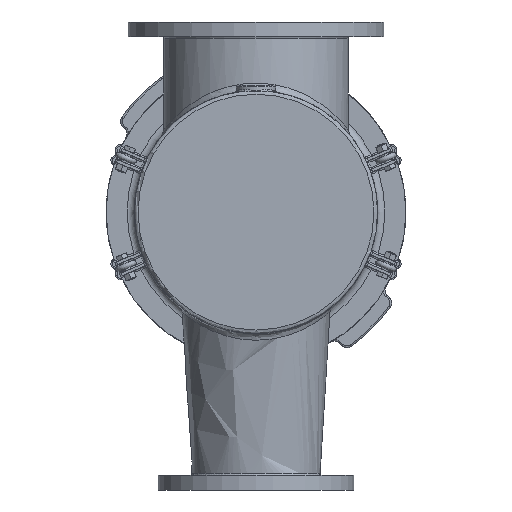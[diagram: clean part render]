
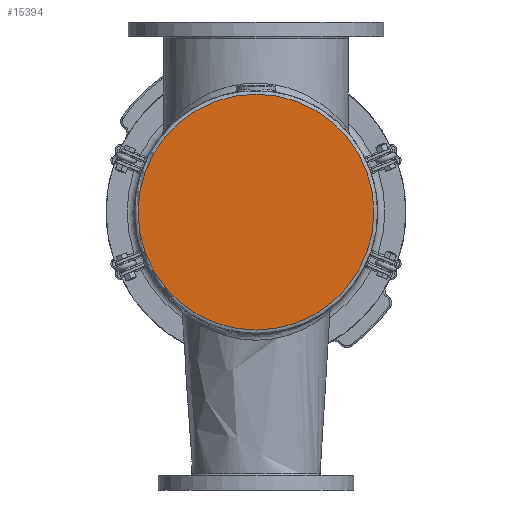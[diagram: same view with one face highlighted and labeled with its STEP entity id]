
A CAD part, front view. The second image highlights one B-rep face of the part: STEP entity #15394.
In plain terms, the highlighted planar face has unit normal (0, -1, 0).
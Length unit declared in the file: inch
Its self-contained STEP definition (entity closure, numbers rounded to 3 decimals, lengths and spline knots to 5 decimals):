
#2229=PLANE('',#16427);
#3496=FACE_OUTER_BOUND('',#4485,.T.);
#4485=EDGE_LOOP('',(#10295));
#5685=CIRCLE('',#16419,8.0625);
#6653=VERTEX_POINT('',#23578);
#8054=EDGE_CURVE('',#6653,#6653,#5685,.T.);
#10295=ORIENTED_EDGE('',*,*,#8054,.F.);
#15394=ADVANCED_FACE('',(#3496),#2229,.F.);
#16419=AXIS2_PLACEMENT_3D('',#23579,#18450,#18451);
#16427=AXIS2_PLACEMENT_3D('',#23590,#18466,#18467);
#18450=DIRECTION('center_axis',(0.,1.,0.));
#18451=DIRECTION('ref_axis',(1.,0.,0.));
#18466=DIRECTION('center_axis',(0.,1.,0.));
#18467=DIRECTION('ref_axis',(0.,0.,1.));
#23578=CARTESIAN_POINT('',(-8.0625,0.,0.));
#23579=CARTESIAN_POINT('Origin',(0.,0.,0.));
#23590=CARTESIAN_POINT('Origin',(0.,0.,0.));
